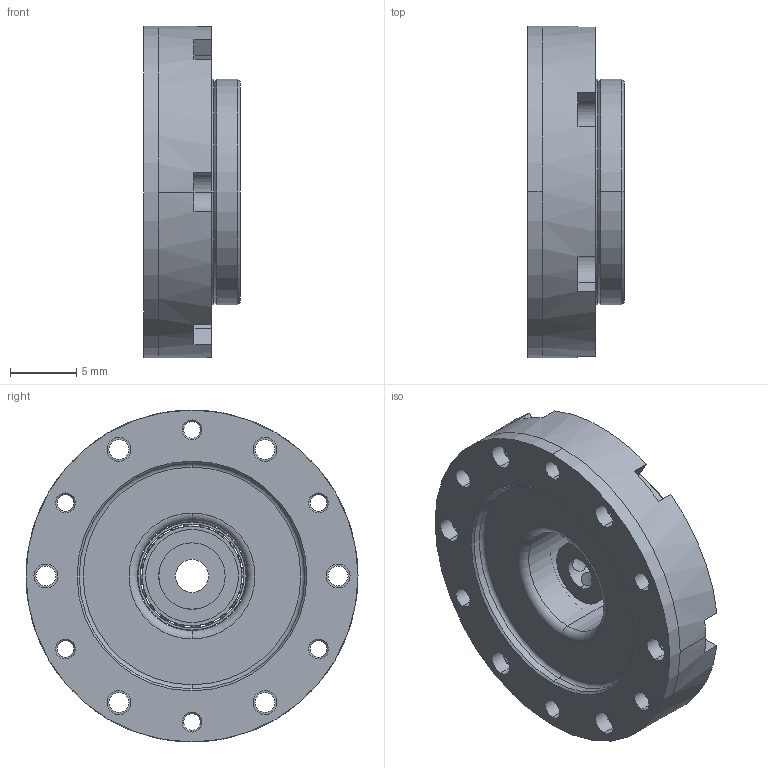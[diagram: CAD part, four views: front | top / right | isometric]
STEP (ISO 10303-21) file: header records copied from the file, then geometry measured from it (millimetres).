
FILE_DESCRIPTION (( 'STEP AP214' ), '1' );
FILE_NAME ('SHD-03-xxx.STEP', '2020-11-09T08:17:45', ( 'PC' ), ( 'Microsoft' ), 'SwSTEP 2.0', 'SolidWorks 2016', '' );
FILE_SCHEMA (( 'AUTOMOTIVE_DESIGN' ));
Length unit declared in the file: millimetre
Products named in the file (18): 柔性轴承-装配体1_預設; CSF-03柔性轴承保持架_預設; 柔性轴承刚珠-0.8_預設; 柔性轴承内圈_預設; ﾈ瞎ﾔﾖ盖ﾐﾍ篳ｦ_猤ﾔO; SHD-03-芧謫_蕼偞; SHD-03-柔轮SLDPRT_預設; SHD-03-詩謫; SHD-03蝠脫粣創_蕼偞; B-1.5-幗紩_蕼偞; 1.5-幗紩_蕼偞; SHD-03-蝠脫粣創黑芛; SHD-03-交叉轴承外圈; SHD-03-交叉轴承内圈; SHD-03-xxx; 17x16x0.5 O型圈_預設; M1.2-蹟佪_蕼偞; SHD-03疏楷汜ん_蕼偞
Assembly tree (73 placements, depth 4):
  SHD-03-xxx
    SHD-03蝠脫粣創_蕼偞
      SHD-03-交叉轴承内圈
      SHD-03-交叉轴承外圈
      SHD-03-蝠脫粣創黑芛
      1.5-幗紩_蕼偞  x18
      B-1.5-幗紩_蕼偞  x18
    SHD-03-詩謫
    SHD-03-柔轮SLDPRT_預設
    SHD-03疏楷汜ん_蕼偞
      SHD-03-芧謫_蕼偞
      柔性轴承-装配体1_預設
        ﾈ瞎ﾔﾖ盖ﾐﾍ篳ｦ_猤ﾔO
        柔性轴承内圈_預設
        柔性轴承刚珠-0.8_預設  x20
        CSF-03柔性轴承保持架_預設
    17x16x0.5 O型圈_預設
    M1.2-蹟佪_蕼偞  x4
Bounding box: 7.3 x 25 x 25 mm (x, y, z)
Volume: 2119.9 mm3; surface area: 4994.1 mm2
Topology: 70 solids, 70 shells, 931 faces, 2197 edges, 1375 vertices
Faces by surface type: cylinder 342, plane 285, torus 186, cone 78, sphere 40
Entity records: 19966 total; most frequent: CARTESIAN_POINT 4109, DIRECTION 3236, ORIENTED_EDGE 2974, EDGE_CURVE 1487, AXIS2_PLACEMENT_3D 1274, VERTEX_POINT 957, EDGE_LOOP 698, LINE 688
